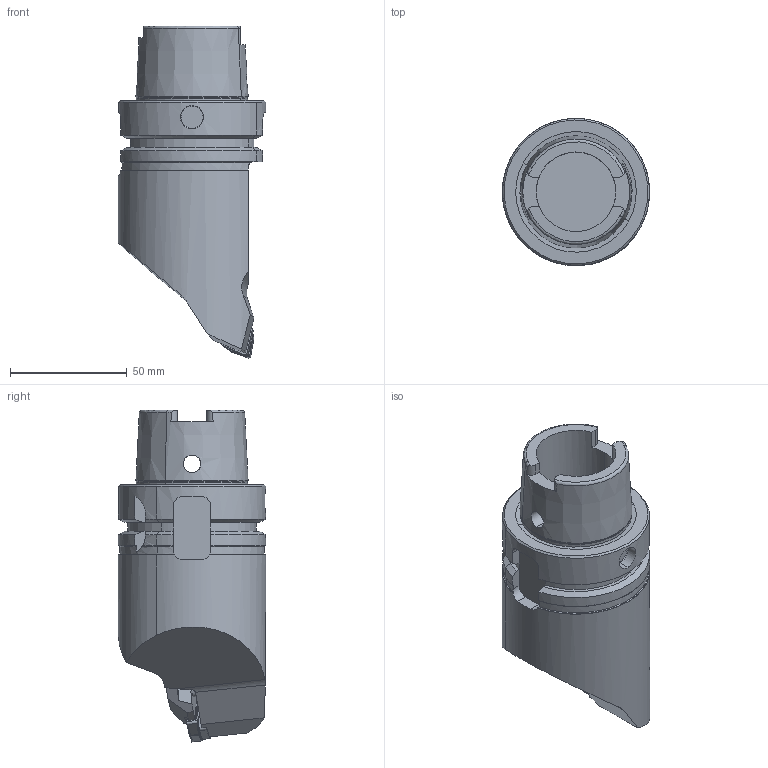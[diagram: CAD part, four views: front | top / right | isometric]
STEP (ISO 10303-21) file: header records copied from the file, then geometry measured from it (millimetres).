
FILE_DESCRIPTION(('CATIA V5 STEP','CAx-IF Rec.Pracs.--- Model Styling and Organization---1.2---2011-12-15'),'2;1');
FILE_NAME('\\nas01\drv1\utils\eitdev\rte\eit\transmagicconvert\db\out\636007260168809118\\3602386-L-B.stp','2016-06-05T09:20:36+00:00',('none'),('none'),'CATIA Version 5 Release 21 SP 5 (IN-10)','CATIA V5 STEP AP214','none');
FILE_SCHEMA(('AUTOMOTIVE_DESIGN { 1 0 10303 214 1 1 1 1 }'));
Products named in the file (1): HSK A63WH-MULNL-J12MW
Bounding box: 62.94 x 63 x 142 mm (x, y, z)
Volume: 246316.8 mm3; surface area: 35217.2 mm2
Topology: 2 solids, 2 shells, 845 faces, 2807 edges, 1967 vertices
Faces by surface type: bspline 616, plane 124, cylinder 72, cone 18, torus 15
Entity records: 41340 total; most frequent: CARTESIAN_POINT 23657, ORIENTED_EDGE 5002, EDGE_CURVE 2501, B_SPLINE_CURVE_WITH_KNOTS 2186, VERTEX_POINT 1660, DIRECTION 943, EDGE_LOOP 855, ADVANCED_FACE 845
